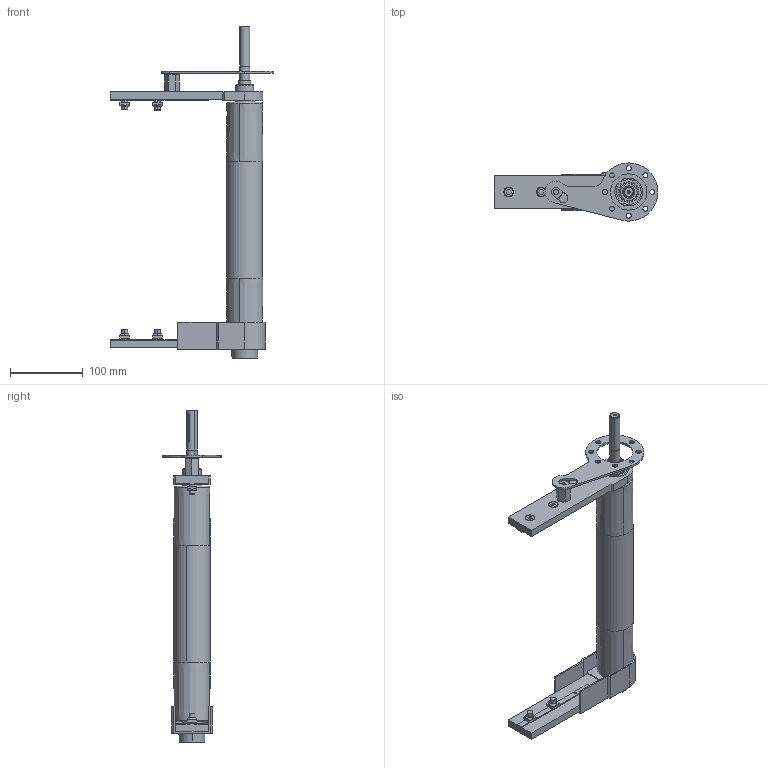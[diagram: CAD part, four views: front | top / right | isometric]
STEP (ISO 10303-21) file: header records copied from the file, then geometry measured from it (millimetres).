
FILE_DESCRIPTION (( 'STEP AP203' ), '1' );
FILE_NAME ('084.050.KD.30.300.STEP', '2019-02-26T12:39:18', ( 'Localadmin' ), ( 'Microsoft' ), 'SwSTEP 2.0', 'SolidWorks 2018', '' );
FILE_SCHEMA (( 'CONFIG_CONTROL_DESIGN' ));
Length unit declared in the file: millimetre
Products named in the file (13): 084.811.004; 084.050.KD.30.300; 084.815.105_Default<A macchina>; 084.810.001; 084.301.000 VITI ALUSIC_084.301.003; 084.302.000 DADI ALUSIC 13x13_084.302.004; 084.811.001; 084.807.002_084.807.002; 084.802.027; 084.807.003_084.807.003; 084.807.005; 084.802.017_084.802.017; 084.802.023_084.802.023
Assembly tree (20 placements, depth 2):
  084.050.KD.30.300
    084.807.002_084.807.002
    084.807.003_084.807.003
    084.802.017_084.802.017  x2
    084.811.004
    084.815.105_Default<A macchina>
    084.810.001  x2
    084.301.000 VITI ALUSIC_084.301.003  x4
    084.302.000 DADI ALUSIC 13x13_084.302.004  x4
    084.811.001
    084.802.027
    084.807.005
    084.802.023_084.802.023
Bounding box: 225 x 80 x 456.5 mm (x, y, z)
Volume: 530317 mm3; surface area: 306318.3 mm2
Topology: 22 solids, 24 shells, 672 faces, 1688 edges, 1097 vertices
Faces by surface type: plane 294, cylinder 233, torus 70, cone 59, sphere 8, bspline 8
Entity records: 16781 total; most frequent: CARTESIAN_POINT 3035, DIRECTION 2698, ORIENTED_EDGE 2444, EDGE_CURVE 1222, AXIS2_PLACEMENT_3D 1046, VERTEX_POINT 799, LINE 606, VECTOR 606
